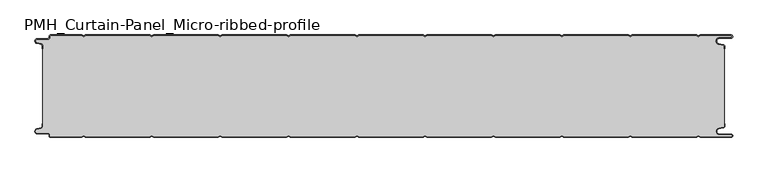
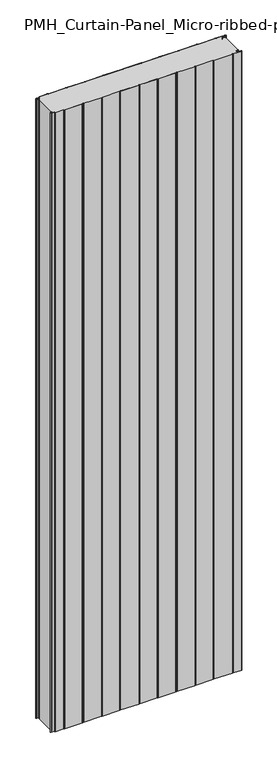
"""IFC4 building model written with IfcOpenShell, lengths in millimetres: plate geometry, PMH_Curtain-Panel_Micro-ribbed-profile : ACH_PMH_Stone-wool-Panel_150M."""

from ifc_helpers import new_model, si_unit, point, frame_2d, origin, origin_with_axes, place, context, project, spatial, polyline, circle_curve, trimmed, segment, composite_curve, outline, extrude, source, transform, mapped, element, save


def pmh_curtain_panel_micro_ribbed_profile_9b3bcd1a(model_context):
    return source(origin(), model_context, "Body", "SweptSolid", [
        extrude(outline(composite_curve([segment(trimmed(circle_curve(frame_2d((-502.0, -15.878557)), 2.0), [point((-500.0, -15.878557))], [point((-501.5500978, -13.9298169))], True, "CARTESIAN"), True, "CONTINUOUS"), segment(polyline([(-501.5500978, -13.9298169), (-507.7098239, -12.507732)]), True, "CONTINUOUS"), segment(trimmed(circle_curve(frame_2d((-506.9, -9.0)), 3.6), [point((-507.7098239, -12.507732))], [point((-506.9, -5.4))], False, "CARTESIAN"), True, "CONTINUOUS"), segment(polyline([(-506.9, -5.4), (-491.4, -5.4)]), True, "CONTINUOUS"), segment(trimmed(circle_curve(frame_2d((-491.4, -3.4)), 2.0), [point((-491.4, -5.4))], [point((-489.4, -3.4))], True, "CARTESIAN"), True, "CONTINUOUS"), segment(polyline([(-489.4, -3.4), (-489.4, -2.0)]), True, "CONTINUOUS"), segment(trimmed(circle_curve(frame_2d((-487.4, -2.0)), 2.0), [point((-489.4, -2.0))], [point((-487.4, 0.0))], False, "CARTESIAN"), True, "CONTINUOUS"), segment(polyline([(-487.4, 0.0), (-442.0999995, 0.0), (-439.4, -1.5588455), (-436.7000005, 0.0), (-342.0999995, 0.0), (-339.4, -1.5588455), (-336.7000005, 0.0), (-242.0999995, 0.0), (-239.4, -1.5588455), (-236.7000005, 0.0), (-142.0999995, 0.0), (-139.4, -1.5588455), (-136.7000005, 0.0), (-42.0999995, 0.0), (-39.4, -1.5588455), (-36.7000005, 0.0), (57.9000005, 0.0), (60.6, -1.5588455), (63.2999995, 0.0), (157.9000005, 0.0), (160.6, -1.5588455), (163.2999995, 0.0), (257.9000005, 0.0), (260.6, -1.5588455), (263.2999995, 0.0), (357.9000005, 0.0), (360.6, -1.5588455), (363.2999995, 0.0), (457.9000005, 0.0), (460.6, -1.5588455), (463.2999995, 0.0), (508.1, 0.0)]), True, "CONTINUOUS"), segment(trimmed(circle_curve(frame_2d((508.1, -2.5)), 2.5), [point((508.1, 0.0))], [point((508.1, -5.0))], False, "CARTESIAN"), True, "CONTINUOUS"), segment(polyline([(508.1, -5.0), (491.1, -5.0)]), True, "CONTINUOUS"), segment(trimmed(circle_curve(frame_2d((491.1, -9.0)), 4.0), [point((491.1, -5.0))], [point((490.405407, -12.939231))], True, "CARTESIAN"), True, "CONTINUOUS"), segment(polyline([(490.405407, -12.939231), (496.8514855, -14.0758491)]), True, "CONTINUOUS"), segment(trimmed(circle_curve(frame_2d((496.4, -16.6363492)), 2.6), [point((496.8514855, -14.0758491))], [point((499.0, -16.6363492))], False, "CARTESIAN"), True, "CONTINUOUS"), segment(polyline([(499.0, -16.6363492), (499.0, -20.0), (498.2, -20.0), (498.2, -16.6363492)]), True, "CONTINUOUS"), segment(trimmed(circle_curve(frame_2d((496.4, -16.6363492)), 1.8), [point((498.2, -16.6363492))], [point((496.7125669, -14.8636953))], True, "CARTESIAN"), True, "CONTINUOUS"), segment(polyline([(496.7125669, -14.8636953), (490.2664884, -13.7270772)]), True, "CONTINUOUS"), segment(trimmed(circle_curve(frame_2d((491.1, -9.0)), 4.8), [point((490.2664884, -13.7270772))], [point((491.1, -4.2))], False, "CARTESIAN"), True, "CONTINUOUS"), segment(polyline([(491.1, -4.2), (508.1, -4.2)]), True, "CONTINUOUS"), segment(trimmed(circle_curve(frame_2d((508.1, -2.5)), 1.7), [point((508.1, -4.2))], [point((508.1, -0.8))], True, "CARTESIAN"), True, "CONTINUOUS"), segment(polyline([(508.1, -0.8), (463.5143588, -0.8), (460.6, -2.482606), (457.6856412, -0.8), (363.5143588, -0.8), (360.6, -2.482606), (357.6856412, -0.8), (263.5143588, -0.8), (260.6, -2.482606), (257.6856412, -0.8), (163.5143588, -0.8), (160.6, -2.482606), (157.6856412, -0.8), (63.5143588, -0.8), (60.6, -2.482606), (57.6856412, -0.8), (-36.4856412, -0.8), (-39.4, -2.482606), (-42.3143588, -0.8), (-136.4856412, -0.8), (-139.4, -2.482606), (-142.3143588, -0.8), (-236.4856412, -0.8), (-239.4, -2.482606), (-242.3143588, -0.8), (-336.4856412, -0.8), (-339.4, -2.482606), (-342.3143588, -0.8), (-436.4856412, -0.8), (-439.4, -2.482606), (-442.3143588, -0.8), (-487.4, -0.8)]), True, "CONTINUOUS"), segment(trimmed(circle_curve(frame_2d((-487.4, -2.0)), 1.2), [point((-487.4, -0.8))], [point((-488.6, -2.0))], True, "CARTESIAN"), True, "CONTINUOUS"), segment(polyline([(-488.6, -2.0), (-488.6, -3.4)]), True, "CONTINUOUS"), segment(trimmed(circle_curve(frame_2d((-491.4, -3.4)), 2.8), [point((-488.6, -3.4))], [point((-491.4, -6.2))], False, "CARTESIAN"), True, "CONTINUOUS"), segment(polyline([(-491.4, -6.2), (-506.9, -6.2)]), True, "CONTINUOUS"), segment(trimmed(circle_curve(frame_2d((-506.9, -9.0)), 2.8), [point((-506.9, -6.2))], [point((-507.529863, -11.7282362))], True, "CARTESIAN"), True, "CONTINUOUS"), segment(polyline([(-507.529863, -11.7282362), (-501.370137, -13.150321)]), True, "CONTINUOUS"), segment(trimmed(circle_curve(frame_2d((-502.0, -15.878557)), 2.8), [point((-501.370137, -13.150321))], [point((-499.2, -15.878557))], False, "CARTESIAN"), True, "CONTINUOUS"), segment(polyline([(-499.2, -15.878557), (-499.2, -20.0), (-500.0, -20.0), (-500.0, -15.878557)]), True, "CONTINUOUS")], self_intersect=False)), origin_with_axes(), (0.0, 0.0, 1.0), 3500.0),
        extrude(outline(composite_curve([segment(polyline([(-499.2, -134.1214426), (-499.2, -15.8785573)]), True, "CONTINUOUS"), segment(trimmed(circle_curve(frame_2d((-502.0, -15.8785573)), 2.8), [point((-499.2, -15.8785573))], [point((-501.370137, -13.1503212))], True, "CARTESIAN"), True, "CONTINUOUS"), segment(polyline([(-501.370137, -13.1503212), (-507.5298631, -11.7282362)]), True, "CONTINUOUS"), segment(trimmed(circle_curve(frame_2d((-506.9, -9.0)), 2.8), [point((-507.5298631, -11.7282362))], [point((-506.9, -6.2))], False, "CARTESIAN"), True, "CONTINUOUS"), segment(polyline([(-506.9, -6.2), (-491.4000001, -6.2)]), True, "CONTINUOUS"), segment(trimmed(circle_curve(frame_2d((-491.4000001, -3.4)), 2.8), [point((-491.4000001, -6.2))], [point((-488.6000001, -3.4))], True, "CARTESIAN"), True, "CONTINUOUS"), segment(polyline([(-488.6000001, -3.4), (-488.6000001, -2.0)]), True, "CONTINUOUS"), segment(trimmed(circle_curve(frame_2d((-487.4000001, -2.0)), 1.2), [point((-488.6000001, -2.0))], [point((-487.4000001, -0.8))], False, "CARTESIAN"), True, "CONTINUOUS"), segment(polyline([(-487.4000001, -0.8), (-442.3143589, -0.8), (-439.4000001, -2.482606), (-436.4856412, -0.8), (-342.3143589, -0.8), (-339.4000001, -2.482606), (-336.4856412, -0.8), (-242.3143589, -0.8), (-239.4000001, -2.482606), (-236.4856412, -0.8), (-142.3143589, -0.8), (-139.4000001, -2.482606), (-136.4856412, -0.8), (-42.3143589, -0.8), (-39.4000001, -2.482606), (-36.4856412, -0.8), (57.6856411, -0.8), (60.5999999, -2.482606), (63.5143588, -0.8), (157.6856411, -0.8), (160.5999999, -2.482606), (163.5143588, -0.8), (257.6856411, -0.8), (260.5999999, -2.482606), (263.5143588, -0.8), (357.6856411, -0.8), (360.5999999, -2.482606), (363.5143588, -0.8), (457.6856411, -0.8), (460.5999999, -2.482606), (463.5143588, -0.8), (508.0999999, -0.8)]), True, "CONTINUOUS"), segment(trimmed(circle_curve(frame_2d((508.0999999, -2.5)), 1.7), [point((508.0999999, -0.8))], [point((508.0999999, -4.2))], False, "CARTESIAN"), True, "CONTINUOUS"), segment(polyline([(508.0999999, -4.2), (491.0999999, -4.2)]), True, "CONTINUOUS"), segment(trimmed(circle_curve(frame_2d((491.0999999, -9.0)), 4.8), [point((491.0999999, -4.2))], [point((490.2664883, -13.7270771))], True, "CARTESIAN"), True, "CONTINUOUS"), segment(polyline([(490.2664883, -13.7270771), (496.7125668, -14.8636953)]), True, "CONTINUOUS"), segment(trimmed(circle_curve(frame_2d((496.3999999, -16.6363492)), 1.8), [point((496.7125668, -14.8636953))], [point((498.1999999, -16.6363492))], False, "CARTESIAN"), True, "CONTINUOUS"), segment(polyline([(498.1999999, -16.6363492), (498.1999999, -133.3636508)]), True, "CONTINUOUS"), segment(trimmed(circle_curve(frame_2d((496.3999999, -133.3636508)), 1.8), [point((498.1999999, -133.3636508))], [point((496.7125668, -135.1363047))], False, "CARTESIAN"), True, "CONTINUOUS"), segment(polyline([(496.7125668, -135.1363047), (490.2664883, -136.2729229)]), True, "CONTINUOUS"), segment(trimmed(circle_curve(frame_2d((491.0999999, -141.0)), 4.8), [point((490.2664883, -136.2729229))], [point((491.0999999, -145.8))], True, "CARTESIAN"), True, "CONTINUOUS"), segment(polyline([(491.0999999, -145.8), (508.0999999, -145.8)]), True, "CONTINUOUS"), segment(trimmed(circle_curve(frame_2d((508.0999999, -147.5)), 1.7), [point((508.0999999, -145.8))], [point((508.0999999, -149.2))], False, "CARTESIAN"), True, "CONTINUOUS"), segment(polyline([(508.0999999, -149.2), (463.5143588, -149.2), (460.5999999, -147.517394), (457.6856411, -149.2), (363.5143588, -149.2), (360.5999999, -147.517394), (357.6856411, -149.2), (263.5143588, -149.2), (260.5999999, -147.517394), (257.6856411, -149.2), (163.5143588, -149.2), (160.5999999, -147.517394), (157.6856411, -149.2), (63.5143588, -149.2), (60.5999999, -147.517394), (57.6856411, -149.2), (-36.4856412, -149.2), (-39.4000001, -147.517394), (-42.3143589, -149.2), (-136.4856412, -149.2), (-139.4000001, -147.517394), (-142.3143589, -149.2), (-236.4856412, -149.2), (-239.4000001, -147.517394), (-242.3143589, -149.2), (-336.4856412, -149.2), (-339.4000001, -147.517394), (-342.3143589, -149.2), (-436.4856412, -149.2), (-439.4000001, -147.517394), (-442.3143589, -149.2), (-487.4000001, -149.2)]), True, "CONTINUOUS"), segment(trimmed(circle_curve(frame_2d((-487.4000001, -148.0)), 1.2), [point((-487.4000001, -149.2))], [point((-488.6000001, -148.0))], False, "CARTESIAN"), True, "CONTINUOUS"), segment(polyline([(-488.6000001, -148.0), (-488.6000001, -146.6)]), True, "CONTINUOUS"), segment(trimmed(circle_curve(frame_2d((-491.4000001, -146.6)), 2.8), [point((-488.6000001, -146.6))], [point((-491.4000001, -143.8))], True, "CARTESIAN"), True, "CONTINUOUS"), segment(polyline([(-491.4000001, -143.8), (-506.9, -143.8)]), True, "CONTINUOUS"), segment(trimmed(circle_curve(frame_2d((-506.9, -141.0)), 2.8), [point((-506.9, -143.8))], [point((-507.5298631, -138.2717638))], False, "CARTESIAN"), True, "CONTINUOUS"), segment(polyline([(-507.5298631, -138.2717638), (-501.370137, -136.8496788)]), True, "CONTINUOUS"), segment(trimmed(circle_curve(frame_2d((-502.0, -134.1214426)), 2.8), [point((-501.370137, -136.8496788))], [point((-499.2, -134.1214426))], True, "CARTESIAN"), True, "CONTINUOUS")], self_intersect=False)), origin_with_axes(), (0.0, 0.0, 1.0), 3500.0),
        extrude(outline(composite_curve([segment(polyline([(-500.0, -134.121443), (-500.0, -130.0), (-499.2, -130.0), (-499.2, -134.121443)]), True, "CONTINUOUS"), segment(trimmed(circle_curve(frame_2d((-502.0, -134.121443)), 2.8), [point((-499.2, -134.121443))], [point((-501.370137, -136.8496792))], False, "CARTESIAN"), True, "CONTINUOUS"), segment(polyline([(-501.370137, -136.8496792), (-507.529863, -138.271764)]), True, "CONTINUOUS"), segment(trimmed(circle_curve(frame_2d((-506.9, -141.0)), 2.8), [point((-507.529863, -138.271764))], [point((-506.9, -143.8))], True, "CARTESIAN"), True, "CONTINUOUS"), segment(polyline([(-506.9, -143.8), (-491.4, -143.8)]), True, "CONTINUOUS"), segment(trimmed(circle_curve(frame_2d((-491.4, -146.6)), 2.8), [point((-491.4, -143.8))], [point((-488.6, -146.6))], False, "CARTESIAN"), True, "CONTINUOUS"), segment(polyline([(-488.6, -146.6), (-488.6, -148.0)]), True, "CONTINUOUS"), segment(trimmed(circle_curve(frame_2d((-487.4, -148.0)), 1.2), [point((-488.6, -148.0))], [point((-487.4, -149.2))], True, "CARTESIAN"), True, "CONTINUOUS"), segment(polyline([(-487.4, -149.2), (-442.3143588, -149.2), (-439.4, -147.517394), (-436.4856412, -149.2), (-342.3143588, -149.2), (-339.4, -147.517394), (-336.4856412, -149.2), (-242.3143588, -149.2), (-239.4, -147.517394), (-236.4856412, -149.2), (-142.3143588, -149.2), (-139.4, -147.517394), (-136.4856412, -149.2), (-42.3143588, -149.2), (-39.4, -147.517394), (-36.4856412, -149.2), (57.6856412, -149.2), (60.6, -147.517394), (63.5143588, -149.2), (157.6856412, -149.2), (160.6, -147.517394), (163.5143588, -149.2), (257.6856412, -149.2), (260.6, -147.517394), (263.5143588, -149.2), (357.6856412, -149.2), (360.6, -147.517394), (363.5143588, -149.2), (457.6856412, -149.2), (460.6, -147.517394), (463.5143588, -149.2), (508.1, -149.2)]), True, "CONTINUOUS"), segment(trimmed(circle_curve(frame_2d((508.1, -147.5)), 1.7), [point((508.1, -149.2))], [point((508.1, -145.8))], True, "CARTESIAN"), True, "CONTINUOUS"), segment(polyline([(508.1, -145.8), (491.1, -145.8)]), True, "CONTINUOUS"), segment(trimmed(circle_curve(frame_2d((491.1, -141.0)), 4.8), [point((491.1, -145.8))], [point((490.2664884, -136.2729229))], False, "CARTESIAN"), True, "CONTINUOUS"), segment(polyline([(490.2664884, -136.2729229), (496.7125669, -135.1363047)]), True, "CONTINUOUS"), segment(trimmed(circle_curve(frame_2d((496.4, -133.3636508)), 1.8), [point((496.7125669, -135.1363047))], [point((498.2, -133.3636508))], True, "CARTESIAN"), True, "CONTINUOUS"), segment(polyline([(498.2, -133.3636508), (498.2, -130.0), (499.0, -130.0), (499.0, -133.3636508)]), True, "CONTINUOUS"), segment(trimmed(circle_curve(frame_2d((496.4, -133.3636508)), 2.6), [point((499.0, -133.3636508))], [point((496.8514855, -135.9241509))], False, "CARTESIAN"), True, "CONTINUOUS"), segment(polyline([(496.8514855, -135.9241509), (490.405407, -137.060769)]), True, "CONTINUOUS"), segment(trimmed(circle_curve(frame_2d((491.1, -141.0)), 4.0), [point((490.405407, -137.060769))], [point((491.1, -145.0))], True, "CARTESIAN"), True, "CONTINUOUS"), segment(polyline([(491.1, -145.0), (508.1, -145.0)]), True, "CONTINUOUS"), segment(trimmed(circle_curve(frame_2d((508.1, -147.5)), 2.5), [point((508.1, -145.0))], [point((508.1, -150.0))], False, "CARTESIAN"), True, "CONTINUOUS"), segment(polyline([(508.1, -150.0), (463.2999995, -150.0), (460.6, -148.4411545), (457.9000005, -150.0), (363.2999995, -150.0), (360.6, -148.4411545), (357.9000005, -150.0), (263.2999995, -150.0), (260.6, -148.4411545), (257.9000005, -150.0), (163.2999995, -150.0), (160.6, -148.4411545), (157.9000005, -150.0), (63.2999995, -150.0), (60.6, -148.4411545), (57.9000005, -150.0), (-36.7000005, -150.0), (-39.4, -148.4411545), (-42.0999995, -150.0), (-136.7000005, -150.0), (-139.4, -148.4411545), (-142.0999995, -150.0), (-236.7000005, -150.0), (-239.4, -148.4411545), (-242.0999995, -150.0), (-336.7000005, -150.0), (-339.4, -148.4411545), (-342.0999995, -150.0), (-436.7000005, -150.0), (-439.4, -148.4411545), (-442.0999995, -150.0), (-487.4, -150.0)]), True, "CONTINUOUS"), segment(trimmed(circle_curve(frame_2d((-487.4, -148.0)), 2.0), [point((-487.4, -150.0))], [point((-489.4, -148.0))], False, "CARTESIAN"), True, "CONTINUOUS"), segment(polyline([(-489.4, -148.0), (-489.4, -146.6)]), True, "CONTINUOUS"), segment(trimmed(circle_curve(frame_2d((-491.4, -146.6)), 2.0), [point((-489.4, -146.6))], [point((-491.4, -144.6))], True, "CARTESIAN"), True, "CONTINUOUS"), segment(polyline([(-491.4, -144.6), (-506.9, -144.6)]), True, "CONTINUOUS"), segment(trimmed(circle_curve(frame_2d((-506.9, -141.0)), 3.6), [point((-506.9, -144.6))], [point((-507.7098239, -137.4922678))], False, "CARTESIAN"), True, "CONTINUOUS"), segment(polyline([(-507.7098239, -137.4922678), (-501.5500979, -136.070183)]), True, "CONTINUOUS"), segment(trimmed(circle_curve(frame_2d((-502.0, -134.121443)), 2.0), [point((-501.5500979, -136.070183))], [point((-500.0, -134.121443))], True, "CARTESIAN"), True, "CONTINUOUS")], self_intersect=False)), origin_with_axes(), (0.0, 0.0, 1.0), 3500.0),
    ])


if __name__ == "__main__":
    model = new_model("IFC4")
    model_context = context("Model", 3, world=origin())
    ifc_project = project(units=[si_unit("LENGTHUNIT", "METRE", prefix="MILLI")], contexts=[model_context])
    site = spatial("IfcSite", under=ifc_project)
    building = spatial("IfcBuilding", under=site)
    placement = place(None, origin())
    pmh_curtain_panel_micro_ribbed_profile_shape = pmh_curtain_panel_micro_ribbed_profile_9b3bcd1a(model_context)
    element("IfcPlate", 1, ObjectType="PMH_Curtain-Panel_Micro-ribbed-profile : ACH_PMH_Stone-wool-Panel_150M", at=placement, inside=building, context=model_context, shape_type="MappedRepresentation", body=[
        mapped(pmh_curtain_panel_micro_ribbed_profile_shape, transform((0.0, 0.0, 0.0), x_axis=(1.0, 0.0, 0.0), y_axis=(0.0, 1.0, 0.0), z_axis=(0.0, 0.0, 1.0))),
    ])
    save(model, "model.ifc")
